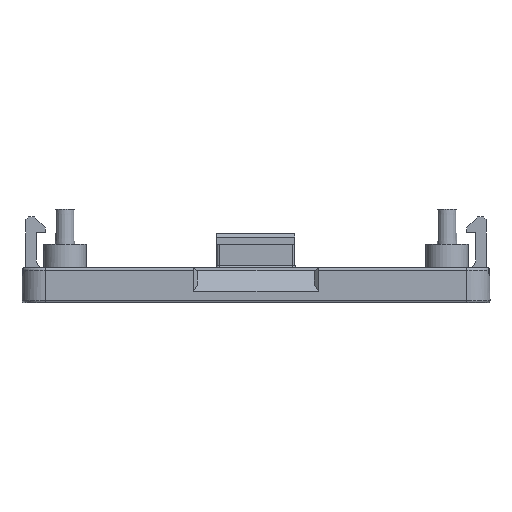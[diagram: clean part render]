
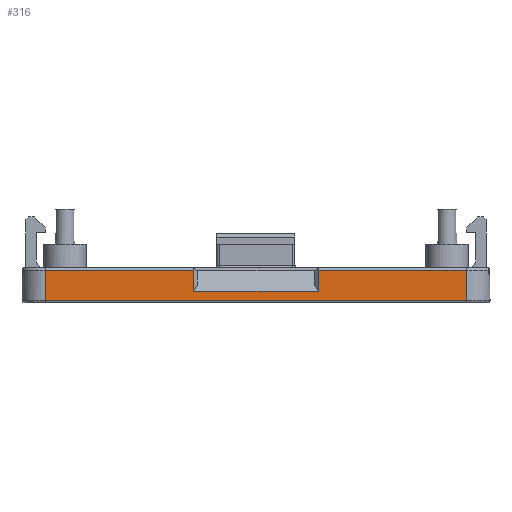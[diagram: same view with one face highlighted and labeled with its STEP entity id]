
A CAD part, left-side view. The second image highlights one B-rep face of the part: STEP entity #316.
In plain terms, the highlighted planar face has unit normal (-1, 0, 0).
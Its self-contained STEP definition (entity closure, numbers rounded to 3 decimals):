
#183=PLANE('',#5562);
#316=ADVANCED_FACE('',(#809),#183,.F.);
#809=FACE_OUTER_BOUND('',#1153,.T.);
#1153=EDGE_LOOP('',(#2742,#2743,#2744,#2745,#2746,#2747,#2748,#2749));
#1922=LINE('',#8343,#2314);
#1923=LINE('',#8347,#2315);
#1924=LINE('',#8349,#2316);
#1925=LINE('',#8351,#2317);
#1926=LINE('',#8353,#2318);
#1927=LINE('',#8355,#2319);
#1928=LINE('',#8357,#2320);
#1929=LINE('',#8359,#2321);
#2314=VECTOR('',#6384,1.);
#2315=VECTOR('',#6389,1.);
#2316=VECTOR('',#6390,1.);
#2317=VECTOR('',#6391,1.);
#2318=VECTOR('',#6392,1.);
#2319=VECTOR('',#6393,1.);
#2320=VECTOR('',#6394,1.);
#2321=VECTOR('',#6395,1.);
#2742=ORIENTED_EDGE('',*,*,#4792,.T.);
#2743=ORIENTED_EDGE('',*,*,#4794,.T.);
#2744=ORIENTED_EDGE('',*,*,#4795,.T.);
#2745=ORIENTED_EDGE('',*,*,#4796,.F.);
#2746=ORIENTED_EDGE('',*,*,#4797,.T.);
#2747=ORIENTED_EDGE('',*,*,#4798,.T.);
#2748=ORIENTED_EDGE('',*,*,#4799,.T.);
#2749=ORIENTED_EDGE('',*,*,#4800,.T.);
#4324=VERTEX_POINT('',#8342);
#4325=VERTEX_POINT('',#8344);
#4326=VERTEX_POINT('',#8348);
#4327=VERTEX_POINT('',#8350);
#4328=VERTEX_POINT('',#8352);
#4329=VERTEX_POINT('',#8354);
#4330=VERTEX_POINT('',#8356);
#4331=VERTEX_POINT('',#8358);
#4792=EDGE_CURVE('',#4325,#4324,#1922,.T.);
#4794=EDGE_CURVE('',#4324,#4326,#1923,.T.);
#4795=EDGE_CURVE('',#4326,#4327,#1924,.T.);
#4796=EDGE_CURVE('',#4328,#4327,#1925,.T.);
#4797=EDGE_CURVE('',#4328,#4329,#1926,.T.);
#4798=EDGE_CURVE('',#4329,#4330,#1927,.T.);
#4799=EDGE_CURVE('',#4330,#4331,#1928,.T.);
#4800=EDGE_CURVE('',#4331,#4325,#1929,.T.);
#5562=AXIS2_PLACEMENT_3D('',#8360,#6396,#6397);
#6384=DIRECTION('',(0.,0.,1.));
#6389=DIRECTION('',(0.,1.,0.));
#6390=DIRECTION('',(0.,0.,-1.));
#6391=DIRECTION('',(0.,-1.,0.));
#6392=DIRECTION('',(0.,0.,1.));
#6393=DIRECTION('',(0.,1.,0.));
#6394=DIRECTION('',(0.,0.,-1.));
#6395=DIRECTION('',(0.,-1.,0.));
#6396=DIRECTION('',(1.,0.,0.));
#6397=DIRECTION('',(0.,0.,-1.));
#8342=CARTESIAN_POINT('',(-44.8,-26.17,-11.255));
#8343=CARTESIAN_POINT('',(-44.8,-26.17,-15.455));
#8344=CARTESIAN_POINT('',(-44.8,-26.17,-15.155));
#8347=CARTESIAN_POINT('',(-44.8,-29.17,-11.255));
#8348=CARTESIAN_POINT('',(-44.8,-7.17,-11.255));
#8349=CARTESIAN_POINT('',(-44.8,-7.17,-13.955));
#8350=CARTESIAN_POINT('',(-44.8,-7.17,-13.955));
#8351=CARTESIAN_POINT('',(-44.8,8.33,-13.955));
#8352=CARTESIAN_POINT('',(-44.8,8.83,-13.955));
#8353=CARTESIAN_POINT('',(-44.8,8.83,-15.455));
#8354=CARTESIAN_POINT('',(-44.8,8.83,-11.255));
#8355=CARTESIAN_POINT('',(-44.8,-29.17,-11.255));
#8356=CARTESIAN_POINT('',(-44.8,27.83,-11.255));
#8357=CARTESIAN_POINT('',(-44.8,27.83,-15.455));
#8358=CARTESIAN_POINT('',(-44.8,27.83,-15.155));
#8359=CARTESIAN_POINT('',(-44.8,-26.17,-15.155));
#8360=CARTESIAN_POINT('',(-44.8,-29.17,-15.455));
